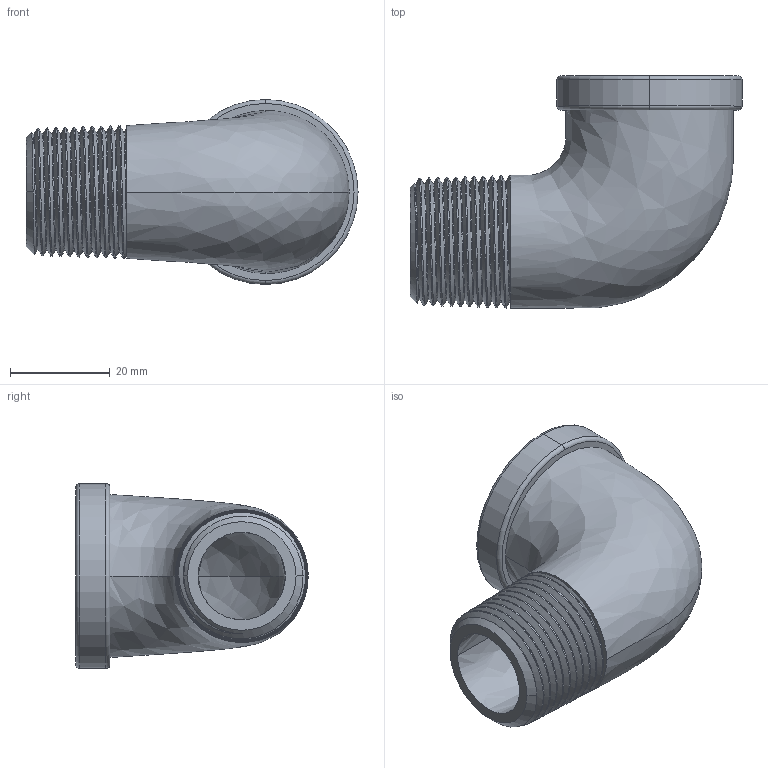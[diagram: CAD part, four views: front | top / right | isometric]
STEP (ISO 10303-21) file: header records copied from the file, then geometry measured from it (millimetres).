
FILE_DESCRIPTION (( 'STEP AP203' ), '1' );
FILE_NAME ('EPL-90ELB-MF-12.STEP', '2026-03-17T20:17:57', ( '' ), ( '' ), 'SwSTEP 2.0', 'SolidWorks 2020', '' );
FILE_SCHEMA (( 'CONFIG_CONTROL_DESIGN' ));
Length unit declared in the file: inch
Products named in the file (1): EPL-90ELB-MF-12
Bounding box: 66.55 x 46.61 x 37.08 mm (x, y, z)
Volume: 21909 mm3; surface area: 14543.4 mm2
Topology: 1 solids, 1 shells, 62 faces, 169 edges, 111 vertices
Faces by surface type: cone 41, bspline 10, plane 5, torus 4, cylinder 2
Entity records: 10736 total; most frequent: CARTESIAN_POINT 9288, ORIENTED_EDGE 338, DIRECTION 201, EDGE_CURVE 169, VERTEX_POINT 111, B_SPLINE_CURVE_WITH_KNOTS 101, AXIS2_PLACEMENT_3D 80, EDGE_LOOP 66
